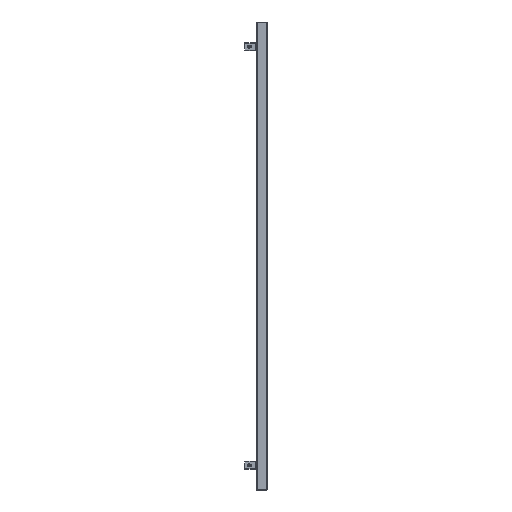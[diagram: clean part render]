
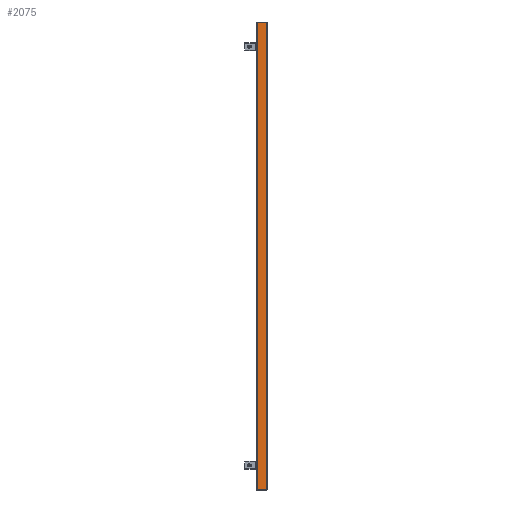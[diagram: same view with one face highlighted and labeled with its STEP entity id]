
A CAD part, left-side view. The second image highlights one B-rep face of the part: STEP entity #2075.
In plain terms, the highlighted planar face has unit normal (-1, 0, 0).
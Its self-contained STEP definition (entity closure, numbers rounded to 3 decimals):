
#1726=CARTESIAN_POINT('',(-290.0,-17.,1.5));
#1727=VERTEX_POINT('',#1726);
#1878=CARTESIAN_POINT('',(-290.0,17.,1.5));
#1879=VERTEX_POINT('',#1878);
#1896=CARTESIAN_POINT('',(-290.0,-17.,1.5));
#1897=DIRECTION('',(0.0,1.0,0.0));
#1898=VECTOR('',#1897,34.0);
#1899=LINE('',#1896,#1898);
#1900=EDGE_CURVE('',#1727,#1879,#1899,.T.);
#2045=CARTESIAN_POINT('',(-290.0,-17.,0.0));
#2046=DIRECTION('',(-1.0,0.0,0.0));
#2047=DIRECTION('',(0.0,0.0,1.0));
#2048=AXIS2_PLACEMENT_3D('',#2045,#2046,#2047);
#2049=PLANE('',#2048);
#2050=ORIENTED_EDGE('',*,*,#1900,.F.);
#2051=CARTESIAN_POINT('',(-290.0,-17.,1698.5));
#2052=VERTEX_POINT('',#2051);
#2053=CARTESIAN_POINT('',(-290.0,-17.,1.5));
#2054=DIRECTION('',(0.0,0.0,1.0));
#2055=VECTOR('',#2054,1697.0);
#2056=LINE('',#2053,#2055);
#2057=EDGE_CURVE('',#1727,#2052,#2056,.T.);
#2058=ORIENTED_EDGE('',*,*,#2057,.T.);
#2059=CARTESIAN_POINT('',(-290.0,17.,1698.5));
#2060=VERTEX_POINT('',#2059);
#2061=CARTESIAN_POINT('',(-290.0,17.,1698.5));
#2062=DIRECTION('',(0.0,-1.0,0.0));
#2063=VECTOR('',#2062,34.0);
#2064=LINE('',#2061,#2063);
#2065=EDGE_CURVE('',#2060,#2052,#2064,.T.);
#2066=ORIENTED_EDGE('',*,*,#2065,.F.);
#2067=CARTESIAN_POINT('',(-290.0,17.,1.5));
#2068=DIRECTION('',(0.0,0.0,1.0));
#2069=VECTOR('',#2068,1697.0);
#2070=LINE('',#2067,#2069);
#2071=EDGE_CURVE('',#1879,#2060,#2070,.T.);
#2072=ORIENTED_EDGE('',*,*,#2071,.F.);
#2073=EDGE_LOOP('',(#2050,#2058,#2066,#2072));
#2074=FACE_OUTER_BOUND('',#2073,.T.);
#2075=ADVANCED_FACE('',(#2074),#2049,.T.);
